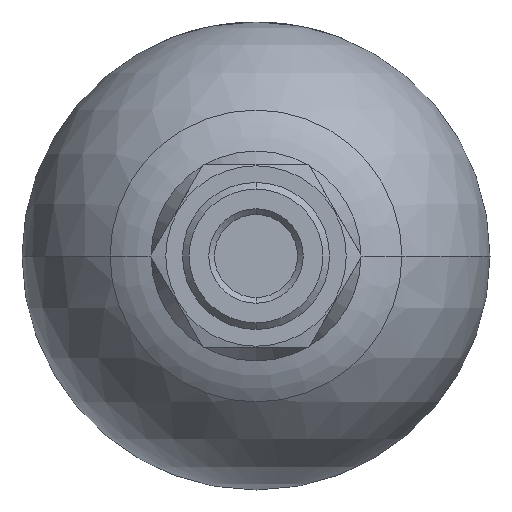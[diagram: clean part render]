
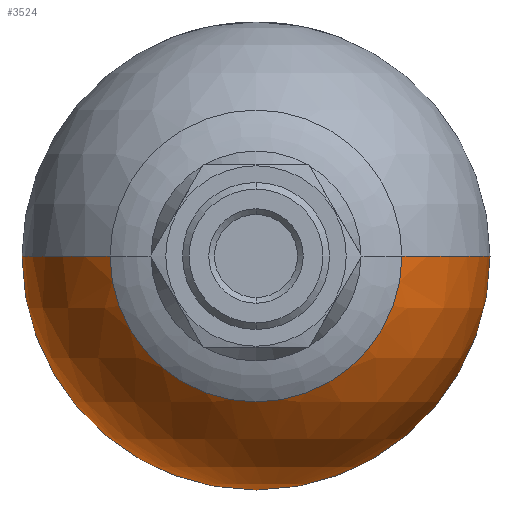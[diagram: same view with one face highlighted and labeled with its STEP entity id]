
A CAD part, front view. The second image highlights one B-rep face of the part: STEP entity #3524.
In plain terms, the highlighted spherical face has radius 52.5 mm.
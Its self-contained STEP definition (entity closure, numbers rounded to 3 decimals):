
#41 = CARTESIAN_POINT ( 'NONE',  ( 32.734, 5.455, 0. ) ) ;
#514 = ORIENTED_EDGE ( 'NONE', *, *, #9050, .T. ) ;
#783 = VERTEX_POINT ( 'NONE', #8661 ) ;
#1037 = SPHERICAL_SURFACE ( 'NONE', #8124, 52.5 ) ;
#1331 = CARTESIAN_POINT ( 'NONE',  ( 0., 46.5, 0. ) ) ;
#1407 = DIRECTION ( 'NONE',  ( 0., 1., 0. ) ) ;
#1409 = EDGE_CURVE ( 'NONE', #4350, #783, #6365, .T. ) ;
#1803 = EDGE_LOOP ( 'NONE', ( #9047, #514, #1999, #2907 ) ) ;
#1920 = CIRCLE ( 'NONE', #3347, 52.5 ) ;
#1999 = ORIENTED_EDGE ( 'NONE', *, *, #6726, .F. ) ;
#2063 = DIRECTION ( 'NONE',  ( -1., 0., 0. ) ) ;
#2086 = CARTESIAN_POINT ( 'NONE',  ( -52.5, 46.5, 0. ) ) ;
#2234 = EDGE_CURVE ( 'NONE', #4350, #4916, #6039, .T. ) ;
#2824 = DIRECTION ( 'NONE',  ( -1., 0., 0. ) ) ;
#2907 = ORIENTED_EDGE ( 'NONE', *, *, #1409, .F. ) ;
#3347 = AXIS2_PLACEMENT_3D ( 'NONE', #9121, #1407, #6547 ) ;
#3524 = ADVANCED_FACE ( 'NONE', ( #8637 ), #1037, .T. ) ;
#3943 = AXIS2_PLACEMENT_3D ( 'NONE', #8989, #4541, #2824 ) ;
#3981 = DIRECTION ( 'NONE',  ( 0., 1., 0. ) ) ;
#4350 = VERTEX_POINT ( 'NONE', #41 ) ;
#4403 = AXIS2_PLACEMENT_3D ( 'NONE', #5783, #3981, #2063 ) ;
#4541 = DIRECTION ( 'NONE',  ( 0., 0., -1. ) ) ;
#4916 = VERTEX_POINT ( 'NONE', #8352 ) ;
#5163 = DIRECTION ( 'NONE',  ( 0., 0., 1. ) ) ;
#5783 = CARTESIAN_POINT ( 'NONE',  ( 0., 5.455, 0. ) ) ;
#5961 = DIRECTION ( 'NONE',  ( 1., 0., 0. ) ) ;
#6039 = CIRCLE ( 'NONE', #4403, 32.734 ) ;
#6132 = VERTEX_POINT ( 'NONE', #2086 ) ;
#6365 = CIRCLE ( 'NONE', #8377, 52.5 ) ;
#6547 = DIRECTION ( 'NONE',  ( -1., 0., 0. ) ) ;
#6726 = EDGE_CURVE ( 'NONE', #783, #6132, #1920, .T. ) ;
#6923 = DIRECTION ( 'NONE',  ( 0., 0., -1. ) ) ;
#8124 = AXIS2_PLACEMENT_3D ( 'NONE', #10481, #6923, #9495 ) ;
#8352 = CARTESIAN_POINT ( 'NONE',  ( -32.734, 5.455, 0. ) ) ;
#8377 = AXIS2_PLACEMENT_3D ( 'NONE', #1331, #5163, #5961 ) ;
#8637 = FACE_OUTER_BOUND ( 'NONE', #1803, .T. ) ;
#8661 = CARTESIAN_POINT ( 'NONE',  ( 52.5, 46.5, 0. ) ) ;
#8989 = CARTESIAN_POINT ( 'NONE',  ( 0., 46.5, 0. ) ) ;
#9047 = ORIENTED_EDGE ( 'NONE', *, *, #2234, .T. ) ;
#9050 = EDGE_CURVE ( 'NONE', #4916, #6132, #9935, .T. ) ;
#9121 = CARTESIAN_POINT ( 'NONE',  ( 0., 46.5, 0. ) ) ;
#9495 = DIRECTION ( 'NONE',  ( 1., 0., 0. ) ) ;
#9935 = CIRCLE ( 'NONE', #3943, 52.5 ) ;
#10481 = CARTESIAN_POINT ( 'NONE',  ( 0., 46.5, 0. ) ) ;
